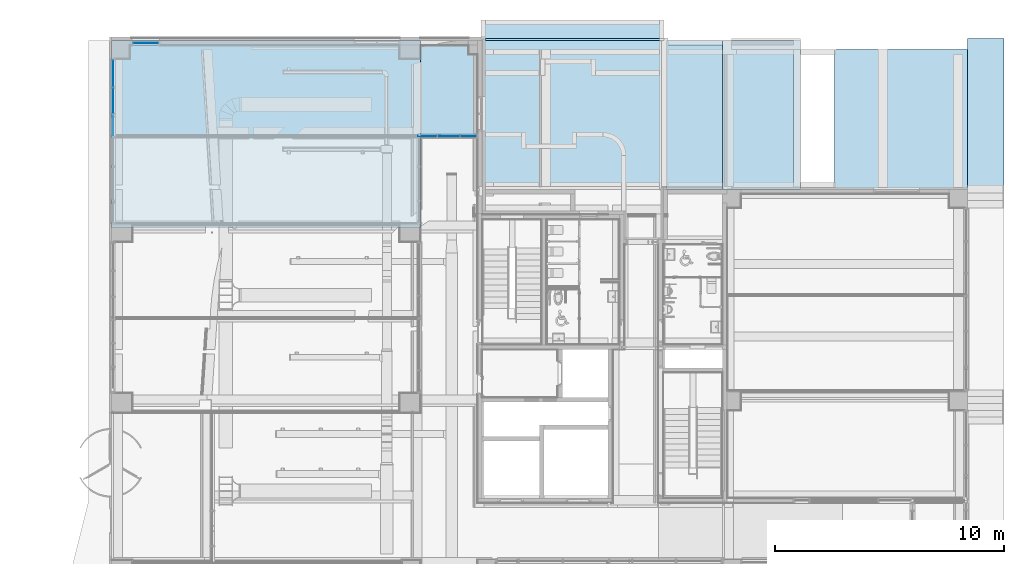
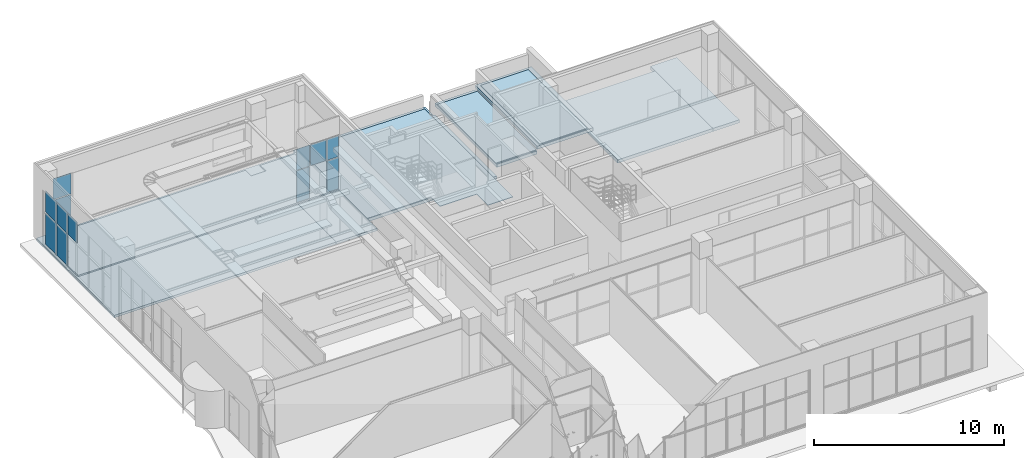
# One storey, part 28 of 100: 12 plates, 12 slabs, 3 elements without a shape of their own.
"""IFC2X3 building model written with IfcOpenShell, lengths in millimetres."""

from ifc_helpers import new_model, entity, si_unit, converted_unit, derived_unit, direction, frame, frame_2d, origin, origin_2d_with_axis, place, context, subcontext, project, spatial, polyline, rectangle, outline, extrude, source, transform, mapped, material, layer, layer_set, layer_usage, type_object, type_shapes, element, aggregate, save


model = new_model("IFC2X3")

# Units and contexts
model_context = context("Model", 3, precision=0.01, world=origin(), true_north=direction((6.123031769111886e-17, 1.0)))
body_context = subcontext(model_context, "Body", "Model", "MODEL_VIEW")
ifc_project = project(units=[si_unit("LENGTHUNIT", "METRE", prefix="MILLI"), si_unit("AREAUNIT", "SQUARE_METRE"), si_unit("VOLUMEUNIT", "CUBIC_METRE"), converted_unit("PLANEANGLEUNIT", "DEGREE", entity("IfcRatioMeasure", 0.017453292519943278), si_unit("PLANEANGLEUNIT", "RADIAN"), dimensions=[0, 0, 0, 0, 0, 0, 0]), si_unit("MASSUNIT", "GRAM", prefix="KILO"), derived_unit("MASSDENSITYUNIT", [(si_unit("MASSUNIT", "GRAM", prefix="KILO"), 1), (si_unit("LENGTHUNIT", "METRE"), -3)]), derived_unit("MOMENTOFINERTIAUNIT", [(si_unit("LENGTHUNIT", "METRE"), 4)]), si_unit("TIMEUNIT", "SECOND"), si_unit("FREQUENCYUNIT", "HERTZ"), si_unit("THERMODYNAMICTEMPERATUREUNIT", "DEGREE_CELSIUS"), derived_unit("THERMALTRANSMITTANCEUNIT", [(si_unit("MASSUNIT", "GRAM", prefix="KILO"), 1), (si_unit("THERMODYNAMICTEMPERATUREUNIT", "KELVIN"), -1), (si_unit("TIMEUNIT", "SECOND"), -3)]), derived_unit("VOLUMETRICFLOWRATEUNIT", [(si_unit("LENGTHUNIT", "METRE"), 3), (si_unit("TIMEUNIT", "SECOND"), -1)]), derived_unit("MASSFLOWRATEUNIT", [(si_unit("MASSUNIT", "GRAM", prefix="KILO"), 1), (si_unit("TIMEUNIT", "SECOND"), -1)]), derived_unit("ROTATIONALFREQUENCYUNIT", [(si_unit("TIMEUNIT", "SECOND"), -1)]), si_unit("ELECTRICCURRENTUNIT", "AMPERE"), si_unit("ELECTRICVOLTAGEUNIT", "VOLT"), si_unit("POWERUNIT", "WATT"), si_unit("FORCEUNIT", "NEWTON", prefix="KILO"), si_unit("ILLUMINANCEUNIT", "LUX"), si_unit("LUMINOUSFLUXUNIT", "LUMEN"), si_unit("LUMINOUSINTENSITYUNIT", "CANDELA"), derived_unit("USERDEFINED", [(si_unit("MASSUNIT", "GRAM", prefix="KILO"), -1), (si_unit("LENGTHUNIT", "METRE"), -2), (si_unit("TIMEUNIT", "SECOND"), 3), (si_unit("LUMINOUSFLUXUNIT", "LUMEN"), 1)]), derived_unit("SOUNDPOWERUNIT", [(si_unit("MASSUNIT", "GRAM", prefix="KILO"), 1), (si_unit("LENGTHUNIT", "METRE"), 2), (si_unit("TIMEUNIT", "SECOND"), -3)]), derived_unit("SOUNDPRESSUREUNIT", [(si_unit("MASSUNIT", "GRAM", prefix="KILO"), 1), (si_unit("LENGTHUNIT", "METRE"), -1), (si_unit("TIMEUNIT", "SECOND"), -2)]), derived_unit("LINEARVELOCITYUNIT", [(si_unit("LENGTHUNIT", "METRE"), 1), (si_unit("TIMEUNIT", "SECOND"), -1)]), si_unit("PRESSUREUNIT", "PASCAL"), derived_unit("USERDEFINED", [(si_unit("LENGTHUNIT", "METRE"), -2), (si_unit("MASSUNIT", "GRAM", prefix="KILO"), 1), (si_unit("TIMEUNIT", "SECOND"), -2)]), derived_unit("LINEARFORCEUNIT", [(si_unit("MASSUNIT", "GRAM", prefix="KILO"), 1), (si_unit("LENGTHUNIT", "METRE"), 1), (si_unit("TIMEUNIT", "SECOND"), -2), (si_unit("LENGTHUNIT", "METRE"), -1)]), derived_unit("PLANARFORCEUNIT", [(si_unit("MASSUNIT", "GRAM", prefix="KILO"), 1), (si_unit("LENGTHUNIT", "METRE"), 1), (si_unit("TIMEUNIT", "SECOND"), -2), (si_unit("LENGTHUNIT", "METRE"), -2)])], contexts=[model_context])

# Site, building, storey
site_placement = place(None, frame((-14167.972527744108, -657.2125860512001, 0.0)))
site = spatial("IfcSite", under=ifc_project, at=site_placement, Name="Default", CompositionType="ELEMENT")
building_placement = place(site_placement, origin())
building = spatial("IfcBuilding", under=site, at=building_placement, Name="Sample Building", CompositionType="ELEMENT")
storey_placement = place(building_placement, origin())
storey = spatial("IfcBuildingStorey", under=building, at=storey_placement, Name="지상 1층", CompositionType="ELEMENT", Elevation=0.0)

# Slabs
ifc_material_1 = material(Name="KBIMS-콘크리트")
ifc_layer_1 = layer(ifc_material_1, 150.0)
ifc_layer_set_1 = layer_set([ifc_layer_1], Name="바닥:SL111-철근콘크리트구조 바닥 150mm_S2")
ifc_layer_usage_1 = layer_usage(ifc_layer_set_1, "AXIS3", "POSITIVE", 0.0)
slab_type_1 = type_object("IfcSlabType", Name="바닥:SL111-철근콘크리트구조 바닥 150mm_S2", PredefinedType="FLOOR", material=ifc_layer_set_1)
slab_1_placement = place(storey_placement, origin())
element("IfcSlab", 1, at=slab_1_placement, inside=storey, type_object=slab_type_1, material=ifc_layer_usage_1, Name="바닥:SL111-철근콘크리트구조 바닥 150mm_S2", ObjectType="바닥:SL111-철근콘크리트구조 바닥 150mm_S2", PredefinedType="FLOOR", context=body_context, shape_type="SweptSolid", body=[
    extrude(rectangle(XDim=8199.99998715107, YDim=13499.982650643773, at=origin_2d_with_axis()), frame((20817.963779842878, 31657.2123015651, 0.0), z_axis=(0.0, 0.0, -1.0), x_axis=(0.0, 1.0, 0.0)), (0.0, 0.0, 1.0), 150.0),
])
ifc_layer_2 = layer(ifc_material_1, 150.0)
ifc_layer_set_2 = layer_set([ifc_layer_2], Name="바닥:SL111-철근콘크리트구조 바닥 150mm_S3")
ifc_layer_usage_2 = layer_usage(ifc_layer_set_2, "AXIS3", "POSITIVE", 0.0)
slab_type_2 = type_object("IfcSlabType", Name="바닥:SL111-철근콘크리트구조 바닥 150mm_S3", PredefinedType="FLOOR", material=ifc_layer_set_2)
slab_2_placement = place(storey_placement, origin())
element("IfcSlab", 2, at=slab_2_placement, inside=storey, type_object=slab_type_2, material=ifc_layer_usage_2, Name="바닥:SL111-철근콘크리트구조 바닥 150mm_S3", ObjectType="바닥:SL111-철근콘크리트구조 바닥 150mm_S3", PredefinedType="FLOOR", context=body_context, shape_type="SweptSolid", body=[
    extrude(rectangle(XDim=8199.999987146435, YDim=2498.1707092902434, at=frame_2d((-4.547473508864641e-12, 4.320099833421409e-12), x_axis=(1.0, 0.0))), frame((28817.04045980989, 31657.212301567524, 0.0), z_axis=(0.0, 0.0, -1.0), x_axis=(0.0, 1.0, 0.0)), (0.0, 0.0, 1.0), 150.0),
])
ifc_layer_3 = layer(ifc_material_1, 200.0)
ifc_layer_set_3 = layer_set([ifc_layer_3], Name="바닥:SL111-철근콘크리트구조 바닥 200mm_S12")
ifc_layer_usage_3 = layer_usage(ifc_layer_set_3, "AXIS3", "POSITIVE", 0.0)
slab_type_3 = type_object("IfcSlabType", Name="바닥:SL111-철근콘크리트구조 바닥 200mm_S12", PredefinedType="FLOOR", material=ifc_layer_set_3)
slab_3_placement = place(storey_placement, origin())
element("IfcSlab", 3, at=slab_3_placement, inside=storey, type_object=slab_type_3, material=ifc_layer_usage_3, Name="바닥:SL111-철근콘크리트구조 바닥 200mm_S12", ObjectType="바닥:SL111-철근콘크리트구조 바닥 200mm_S12", PredefinedType="FLOOR", context=body_context, shape_type="SweptSolid", body=[
    extrude(rectangle(XDim=6100.000012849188, YDim=5800.411960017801, at=frame_2d((0.0, 4.320099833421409e-12), x_axis=(1.0, 0.0))), frame((48567.75784892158, 32307.212301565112, -2100.0), z_axis=(0.0, 0.0, -1.0), x_axis=(0.0, 1.0, 0.0)), (0.0, 0.0, 1.0), 200.0),
])
ifc_layer_4 = layer(ifc_material_1, 200.0)
ifc_layer_set_4 = layer_set([ifc_layer_4], Name="바닥:SL111-철근콘크리트구조 바닥 200mm_S13")
ifc_layer_usage_4 = layer_usage(ifc_layer_set_4, "AXIS3", "POSITIVE", 0.0)
slab_type_4 = type_object("IfcSlabType", Name="바닥:SL111-철근콘크리트구조 바닥 200mm_S13", PredefinedType="FLOOR", material=ifc_layer_set_4)
slab_4_placement = place(storey_placement, origin())
element("IfcSlab", 4, at=slab_4_placement, inside=storey, type_object=slab_type_4, material=ifc_layer_usage_4, Name="바닥:SL111-철근콘크리트구조 바닥 200mm_S13", ObjectType="바닥:SL111-철근콘크리트구조 바닥 200mm_S13", PredefinedType="FLOOR", context=body_context, shape_type="SweptSolid", body=[
    extrude(rectangle(XDim=6499.999987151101, YDim=8251.846676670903, at=frame_2d((2.2737367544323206e-12, -2.2737367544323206e-12), x_axis=(1.0, 0.0))), frame((34192.04915279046, 32507.212301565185, -550.0), z_axis=(0.0, 0.0, -1.0), x_axis=(0.0, 1.0, 0.0)), (0.0, 0.0, 1.0), 200.0),
])
ifc_material_2 = material(Name="SL341-테라조 바닥 (바탕48mm, 마감32mm)")
ifc_layer_5 = layer(ifc_material_2, 80.0)
ifc_layer_set_5 = layer_set([ifc_layer_5], Name="바닥:A1-14-06B-테라조타일 (80mm)")
ifc_layer_usage_5 = layer_usage(ifc_layer_set_5, "AXIS3", "POSITIVE", 0.0)
slab_type_5 = type_object("IfcSlabType", Name="바닥:A1-14-06B-테라조타일 (80mm)", PredefinedType="FLOOR", material=ifc_layer_set_5)
slab_5_placement = place(storey_placement, origin())
element("IfcSlab", 5, at=slab_5_placement, inside=storey, type_object=slab_type_5, material=ifc_layer_usage_5, Name="바닥:A1-14-06B-테라조타일 (80mm)", ObjectType="바닥:A1-14-06B-테라조타일 (80mm)", PredefinedType="FLOOR", context=body_context, shape_type="SweptSolid", body=[
    extrude(outline(polyline([(-3035.445453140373, -9645.53858115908), (327.08907930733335, -9645.53858115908), (327.08907930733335, -8970.521231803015), (927.08909389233, -8970.521231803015), (927.089093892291, 2829.4788048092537), (327.08907930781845, 2829.4788048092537), (327.08907930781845, 3729.478804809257), (927.089093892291, 3729.478804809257), (927.0890938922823, 5829.470075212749), (527.0891067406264, 5829.470075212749), (527.0891067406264, 6227.632128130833), (-3035.4454531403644, 6227.632128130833), (-3035.445453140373, -9645.53858115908)])), frame((23838.493686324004, 34630.1232012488, 80.0), z_axis=(0.0, 0.0, -1.0), x_axis=(0.0, 1.0, 0.0)), (0.0, 0.0, 1.0), 80.0),
])

# Curtain wall, plates
curtain_wall_type = type_object("IfcCurtainWallType", Name="커튼월:CW112-스테인리스 스틸 커튼월", PredefinedType="NOTDEFINED")
curtain_wall_1_placement = place(storey_placement, origin())
curtain_wall_1 = element("IfcCurtainWall", 6, at=curtain_wall_1_placement, inside=storey, type_object=curtain_wall_type, Name="커튼월:CW112-스테인리스 스틸 커튼월", ObjectType="커튼월:CW112-스테인리스 스틸 커튼월")
ifc_material_3 = material(Name="KBIMS-로이유리(코팅)")
plate_type_1 = type_object("IfcPlateType", Name="CW300-THK24.Low-e coating glass:CW300-THK24.Low-e coating glass", PredefinedType="CURTAIN_PANEL", material=ifc_material_3)
shared_shape_1 = source(origin(), body_context, "Body", "SweptSolid", [
    extrude(rectangle(XDim=1175.0345324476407, YDim=24.000000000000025, at=origin_2d_with_axis()), frame((0.0, 0.0, 0.0), z_axis=(0.0, 0.0, 1.0), x_axis=(-1.0, 0.0, 0.0)), (0.0, 0.0, 1.0), 2024.9999999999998),
])
type_shapes(plate_type_1, [shared_shape_1])
plate_1_placement = place(curtain_wall_1_placement, frame((14130.455105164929, 34319.69501433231, 130.0), z_axis=(0.0, 0.0, 1.0), x_axis=(0.0, -1.0, 0.0)))
plate_1 = element("IfcPlate", 7, at=plate_1_placement, type_object=plate_type_1, material=ifc_material_3, Name="CW300-THK24.Low-e coating glass:CW300-THK24.Low-e coating glass", ObjectType="CW300-THK24.Low-e coating glass:CW300-THK24.Low-e coating glass", context=body_context, shape_type="MappedRepresentation", body=[
    mapped(shared_shape_1, transform((0.0, 0.0, 0.0), scale=1.0)),
])
plate_type_2 = type_object("IfcPlateType", Name="CW300-THK24.Low-e coating glass:CW300-THK24.Low-e coating glass", PredefinedType="CURTAIN_PANEL", material=ifc_material_3)
shared_shape_2 = source(origin(), body_context, "Body", "SweptSolid", [
    extrude(rectangle(XDim=1100.0000000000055, YDim=24.000000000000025, at=origin_2d_with_axis()), frame((0.0, 0.0, 0.0), z_axis=(0.0, 0.0, 1.0), x_axis=(-1.0, 0.0, 0.0)), (0.0, 0.0, 1.0), 2024.9999999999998),
])
type_shapes(plate_type_2, [shared_shape_2])
plate_2_placement = place(curtain_wall_1_placement, frame((14130.455105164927, 33132.177748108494, 130.0), z_axis=(0.0, 0.0, 1.0), x_axis=(0.0, -1.0, 0.0)))
plate_2 = element("IfcPlate", 8, at=plate_2_placement, type_object=plate_type_2, material=ifc_material_3, Name="CW300-THK24.Low-e coating glass:CW300-THK24.Low-e coating glass", ObjectType="CW300-THK24.Low-e coating glass:CW300-THK24.Low-e coating glass", context=body_context, shape_type="MappedRepresentation", body=[
    mapped(shared_shape_2, transform((0.0, 0.0, 0.0), scale=1.0)),
])

# Curtain wall, plate
curtain_wall_2_placement = place(storey_placement, origin())
curtain_wall_2 = element("IfcCurtainWall", 9, at=curtain_wall_2_placement, inside=storey, type_object=curtain_wall_type, Name="커튼월:CW112-스테인리스 스틸 커튼월", ObjectType="커튼월:CW112-스테인리스 스틸 커튼월")
plate_3_placement = place(curtain_wall_2_placement, frame((15567.998485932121, 35657.21229514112, 130.0)))
plate_3 = element("IfcPlate", 10, at=plate_3_placement, type_object=plate_type_2, material=ifc_material_3, Name="CW300-THK24.Low-e coating glass:CW300-THK24.Low-e coating glass", ObjectType="CW300-THK24.Low-e coating glass:CW300-THK24.Low-e coating glass", context=body_context, shape_type="MappedRepresentation", body=[
    mapped(shared_shape_2, transform((0.0, 0.0, 0.0), scale=1.0)),
])

# Plate
plate_type_3 = type_object("IfcPlateType", Name="CW300-THK24.Low-e coating glass:CW300-THK24.Low-e coating glass", PredefinedType="CURTAIN_PANEL", material=ifc_material_3)
shared_shape_3 = source(origin(), body_context, "Body", "SweptSolid", [
    extrude(rectangle(XDim=1175.0345324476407, YDim=24.000000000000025, at=origin_2d_with_axis()), frame((0.0, 0.0, 0.0), z_axis=(0.0, 0.0, 1.0), x_axis=(-1.0, 0.0, 0.0)), (0.0, 0.0, 1.0), 1345.000000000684),
])
type_shapes(plate_type_3, [shared_shape_3])
plate_4_placement = place(curtain_wall_1_placement, frame((14130.455105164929, 34319.69501433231, 2205.0), z_axis=(0.0, 0.0, 1.0), x_axis=(0.0, -1.0, 0.0)))
plate_4 = element("IfcPlate", 11, at=plate_4_placement, type_object=plate_type_3, material=ifc_material_3, Name="CW300-THK24.Low-e coating glass:CW300-THK24.Low-e coating glass", ObjectType="CW300-THK24.Low-e coating glass:CW300-THK24.Low-e coating glass", context=body_context, shape_type="MappedRepresentation", body=[
    mapped(shared_shape_3, transform((0.0, 0.0, 0.0), scale=1.0)),
])

plate_type_4 = type_object("IfcPlateType", Name="CW300-THK24.Low-e coating glass:CW300-THK24.Low-e coating glass", PredefinedType="CURTAIN_PANEL", material=ifc_material_3)
shared_shape_4 = source(origin(), body_context, "Body", "SweptSolid", [
    extrude(rectangle(XDim=1100.0000000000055, YDim=24.000000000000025, at=origin_2d_with_axis()), frame((0.0, 0.0, 0.0), z_axis=(0.0, 0.0, 1.0), x_axis=(-1.0, 0.0, 0.0)), (0.0, 0.0, 1.0), 1345.000000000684),
])
type_shapes(plate_type_4, [shared_shape_4])
plate_5_placement = place(curtain_wall_1_placement, frame((14130.455105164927, 33132.177748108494, 2205.0), z_axis=(0.0, 0.0, 1.0), x_axis=(0.0, -1.0, 0.0)))
plate_5 = element("IfcPlate", 12, at=plate_5_placement, type_object=plate_type_4, material=ifc_material_3, Name="CW300-THK24.Low-e coating glass:CW300-THK24.Low-e coating glass", ObjectType="CW300-THK24.Low-e coating glass:CW300-THK24.Low-e coating glass", context=body_context, shape_type="MappedRepresentation", body=[
    mapped(shared_shape_4, transform((0.0, 0.0, 0.0), scale=1.0)),
])

plate_6_placement = place(curtain_wall_2_placement, frame((15567.998485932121, 35657.21229514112, 2205.0)))
plate_6 = element("IfcPlate", 13, at=plate_6_placement, type_object=plate_type_4, material=ifc_material_3, Name="CW300-THK24.Low-e coating glass:CW300-THK24.Low-e coating glass", ObjectType="CW300-THK24.Low-e coating glass:CW300-THK24.Low-e coating glass", context=body_context, shape_type="MappedRepresentation", body=[
    mapped(shared_shape_4, transform((0.0, 0.0, 0.0), scale=1.0)),
])

aggregate(curtain_wall_2, [plate_3, plate_6])

plate_type_5 = type_object("IfcPlateType", Name="CW300-THK24.Low-e coating glass:CW300-THK24.Low-e coating glass", PredefinedType="CURTAIN_PANEL", material=ifc_material_3)
shared_shape_5 = source(origin(), body_context, "Body", "SweptSolid", [
    extrude(rectangle(XDim=950.0000000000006, YDim=24.000000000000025, at=origin_2d_with_axis()), frame((0.0, 0.0, 0.0), z_axis=(0.0, 0.0, 1.0), x_axis=(-1.0, 0.0, 0.0)), (0.0, 0.0, 1.0), 1345.000000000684),
])
type_shapes(plate_type_5, [shared_shape_5])
plate_7_placement = place(curtain_wall_1_placement, frame((14130.455105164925, 32057.177748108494, 2205.0), z_axis=(0.0, 0.0, 1.0), x_axis=(0.0, -1.0, 0.0)))
plate_7 = element("IfcPlate", 14, at=plate_7_placement, type_object=plate_type_5, material=ifc_material_3, Name="CW300-THK24.Low-e coating glass:CW300-THK24.Low-e coating glass", ObjectType="CW300-THK24.Low-e coating glass:CW300-THK24.Low-e coating glass", context=body_context, shape_type="MappedRepresentation", body=[
    mapped(shared_shape_5, transform((0.0, 0.0, 0.0), scale=1.0)),
])

aggregate(curtain_wall_1, [plate_1, plate_2, plate_4, plate_5, plate_7])

# Curtain wall, plates
curtain_wall_3_placement = place(storey_placement, origin())
curtain_wall_3 = element("IfcCurtainWall", 15, at=curtain_wall_3_placement, inside=storey, type_object=curtain_wall_type, Name="커튼월:CW112-스테인리스 스틸 커튼월", ObjectType="커튼월:CW112-스테인리스 스틸 커튼월")
plate_8_placement = place(curtain_wall_3_placement, frame((28799.12581445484, 31587.177748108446, 2205.0)))
plate_8 = element("IfcPlate", 16, at=plate_8_placement, type_object=plate_type_5, material=ifc_material_3, Name="CW300-THK24.Low-e coating glass:CW300-THK24.Low-e coating glass", ObjectType="CW300-THK24.Low-e coating glass:CW300-THK24.Low-e coating glass", context=body_context, shape_type="MappedRepresentation", body=[
    mapped(shared_shape_5, transform((0.0, 0.0, 0.0), scale=1.0)),
])
plate_type_6 = type_object("IfcPlateType", Name="CW300-THK24.Low-e coating glass:CW300-THK24.Low-e coating glass", PredefinedType="CURTAIN_PANEL", material=ifc_material_3)
shared_shape_6 = source(origin(), body_context, "Body", "SweptSolid", [
    extrude(rectangle(XDim=801.1533233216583, YDim=24.000000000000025, at=origin_2d_with_axis()), frame((0.0, 0.0, 0.0), z_axis=(0.0, 0.0, 1.0), x_axis=(-1.0, 0.0, 0.0)), (0.0, 0.0, 1.0), 2024.9999999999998),
])
type_shapes(plate_type_6, [shared_shape_6])
plate_9_placement = place(curtain_wall_3_placement, frame((27873.54915279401, 31587.17774810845, 130.0)))
plate_9 = element("IfcPlate", 17, at=plate_9_placement, type_object=plate_type_6, material=ifc_material_3, Name="CW300-THK24.Low-e coating glass:CW300-THK24.Low-e coating glass", ObjectType="CW300-THK24.Low-e coating glass:CW300-THK24.Low-e coating glass", context=body_context, shape_type="MappedRepresentation", body=[
    mapped(shared_shape_6, transform((0.0, 0.0, 0.0), scale=1.0)),
])
plate_type_7 = type_object("IfcPlateType", Name="CW300-THK24.Low-e coating glass:CW300-THK24.Low-e coating glass", PredefinedType="CURTAIN_PANEL", material=ifc_material_3)
shared_shape_7 = source(origin(), body_context, "Body", "SweptSolid", [
    extrude(rectangle(XDim=691.9999999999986, YDim=24.000000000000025, at=origin_2d_with_axis()), frame((0.0, 0.0, 0.0), z_axis=(0.0, 0.0, 1.0), x_axis=(-1.0, 0.0, 0.0)), (0.0, 0.0, 1.0), 2024.9999999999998),
])
type_shapes(plate_type_7, [shared_shape_7])
plate_10_placement = place(curtain_wall_3_placement, frame((29670.125814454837, 31587.177748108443, 130.0)))
plate_10 = element("IfcPlate", 18, at=plate_10_placement, type_object=plate_type_7, material=ifc_material_3, Name="CW300-THK24.Low-e coating glass:CW300-THK24.Low-e coating glass", ObjectType="CW300-THK24.Low-e coating glass:CW300-THK24.Low-e coating glass", context=body_context, shape_type="MappedRepresentation", body=[
    mapped(shared_shape_7, transform((0.0, 0.0, 0.0), scale=1.0)),
])
plate_type_8 = type_object("IfcPlateType", Name="CW300-THK24.Low-e coating glass:CW300-THK24.Low-e coating glass", PredefinedType="CURTAIN_PANEL", material=ifc_material_3)
shared_shape_8 = source(origin(), body_context, "Body", "SweptSolid", [
    extrude(rectangle(XDim=801.1533233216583, YDim=24.000000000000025, at=origin_2d_with_axis()), frame((0.0, 0.0, 0.0), z_axis=(0.0, 0.0, 1.0), x_axis=(-1.0, 0.0, 0.0)), (0.0, 0.0, 1.0), 1345.000000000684),
])
type_shapes(plate_type_8, [shared_shape_8])
plate_11_placement = place(curtain_wall_3_placement, frame((27873.54915279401, 31587.17774810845, 2205.0)))
plate_11 = element("IfcPlate", 19, at=plate_11_placement, type_object=plate_type_8, material=ifc_material_3, Name="CW300-THK24.Low-e coating glass:CW300-THK24.Low-e coating glass", ObjectType="CW300-THK24.Low-e coating glass:CW300-THK24.Low-e coating glass", context=body_context, shape_type="MappedRepresentation", body=[
    mapped(shared_shape_8, transform((0.0, 0.0, 0.0), scale=1.0)),
])
plate_type_9 = type_object("IfcPlateType", Name="CW300-THK24.Low-e coating glass:CW300-THK24.Low-e coating glass", PredefinedType="CURTAIN_PANEL", material=ifc_material_3)
shared_shape_9 = source(origin(), body_context, "Body", "SweptSolid", [
    extrude(rectangle(XDim=691.9999999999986, YDim=24.000000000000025, at=origin_2d_with_axis()), frame((0.0, 0.0, 0.0), z_axis=(0.0, 0.0, 1.0), x_axis=(-1.0, 0.0, 0.0)), (0.0, 0.0, 1.0), 1345.000000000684),
])
type_shapes(plate_type_9, [shared_shape_9])
plate_12_placement = place(curtain_wall_3_placement, frame((29670.125814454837, 31587.177748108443, 2205.0)))
plate_12 = element("IfcPlate", 20, at=plate_12_placement, type_object=plate_type_9, material=ifc_material_3, Name="CW300-THK24.Low-e coating glass:CW300-THK24.Low-e coating glass", ObjectType="CW300-THK24.Low-e coating glass:CW300-THK24.Low-e coating glass", context=body_context, shape_type="MappedRepresentation", body=[
    mapped(shared_shape_9, transform((0.0, 0.0, 0.0), scale=1.0)),
])
aggregate(curtain_wall_3, [plate_9, plate_10, plate_11, plate_8, plate_12])

# Slabs
ifc_layer_6 = layer(ifc_material_1, 200.0)
ifc_layer_set_6 = layer_set([ifc_layer_6], Name="바닥:SL111-철근콘크리트구조 바닥 200mm_S11")
ifc_layer_usage_6 = layer_usage(ifc_layer_set_6, "AXIS3", "POSITIVE", 0.0)
slab_type_6 = type_object("IfcSlabType", Name="바닥:SL111-철근콘크리트구조 바닥 200mm_S11", PredefinedType="FLOOR", material=ifc_layer_set_6)
slab_6_placement = place(storey_placement, origin())
element("IfcSlab", 21, at=slab_6_placement, inside=storey, type_object=slab_type_6, material=ifc_layer_usage_6, Name="바닥:SL111-철근콘크리트구조 바닥 200mm_S11", ObjectType="바닥:SL111-철근콘크리트구조 바닥 200mm_S11", PredefinedType="FLOOR", context=body_context, shape_type="SweptSolid", body=[
    extrude(rectangle(XDim=6599.999912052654, YDim=1600.008662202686, at=frame_2d((-4.320099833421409e-12, 4.376943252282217e-12), x_axis=(1.0, 0.0))), frame((52267.96816003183, 32557.212351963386, -2100.0), z_axis=(0.0, 0.0, -1.0), x_axis=(0.0, 1.0, 0.0)), (0.0, 0.0, 1.0), 200.0),
])
ifc_layer_usage_7 = layer_usage(ifc_layer_set_4, "AXIS3", "POSITIVE", 0.0)
slab_type_7 = type_object("IfcSlabType", Name="바닥:SL111-철근콘크리트구조 바닥 200mm_S13", PredefinedType="FLOOR", material=ifc_layer_set_4)
slab_7_placement = place(storey_placement, origin())
element("IfcSlab", 22, at=slab_7_placement, inside=storey, type_object=slab_type_7, material=ifc_layer_usage_7, Name="바닥:SL111-철근콘크리트구조 바닥 200mm_S13", ObjectType="바닥:SL111-철근콘크리트구조 바닥 200mm_S13", PredefinedType="FLOOR", context=body_context, shape_type="SweptSolid", body=[
    extrude(rectangle(XDim=6500.000012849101, YDim=3400.000000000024, at=frame_2d((2.0463630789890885e-12, 0.0), x_axis=(1.0, 0.0))), frame((42467.94720597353, 32507.212301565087, 500.0), z_axis=(0.0, 0.0, -1.0), x_axis=(0.0, 1.0, 0.0)), (0.0, 0.0, 1.0), 200.0),
])
ifc_layer_usage_8 = layer_usage(ifc_layer_set_4, "AXIS3", "POSITIVE", 0.0)
slab_type_8 = type_object("IfcSlabType", Name="바닥:SL111-철근콘크리트구조 바닥 200mm_S13", PredefinedType="FLOOR", material=ifc_layer_set_4)
slab_8_placement = place(storey_placement, origin())
element("IfcSlab", 23, at=slab_8_placement, inside=storey, type_object=slab_type_8, material=ifc_layer_usage_8, Name="바닥:SL111-철근콘크리트구조 바닥 200mm_S13", ObjectType="바닥:SL111-철근콘크리트구조 바닥 200mm_S13", PredefinedType="FLOOR", context=body_context, shape_type="SweptSolid", body=[
    extrude(rectangle(XDim=6500.000000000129, YDim=2449.9913070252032, at=frame_2d((-4.320099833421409e-12, -5.393303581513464e-10), x_axis=(1.0, 0.0))), frame((39542.96814463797, 32507.212307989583, 200.0), z_axis=(0.0, 0.0, -1.0), x_axis=(0.0, 1.0, 0.0)), (0.0, 0.0, 1.0), 200.0),
])
ifc_layer_usage_9 = layer_usage(ifc_layer_set_4, "AXIS3", "POSITIVE", 0.0)
slab_type_9 = type_object("IfcSlabType", Name="바닥:SL111-철근콘크리트구조 바닥 200mm_S13", PredefinedType="FLOOR", material=ifc_layer_set_4)
slab_9_placement = place(storey_placement, origin())
element("IfcSlab", 24, at=slab_9_placement, inside=storey, type_object=slab_type_9, material=ifc_layer_usage_9, Name="바닥:SL111-철근콘크리트구조 바닥 200mm_S13", ObjectType="바닥:SL111-철근콘크리트구조 바닥 200mm_S13", PredefinedType="FLOOR", context=body_context, shape_type="SweptSolid", body=[
    extrude(rectangle(XDim=799.9999672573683, YDim=7999.999999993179, at=frame_2d((2.1600499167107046e-12, -2.0463630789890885e-12), x_axis=(1.0, 0.0))), frame((34217.97249112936, 36257.21229161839, -550.0), z_axis=(0.0, 0.0, -1.0), x_axis=(0.0, 1.0, 0.0)), (0.0, 0.0, 1.0), 200.0),
])
ifc_material_4 = material(Name="KBIMS-목재블록")
ifc_layer_7 = layer(ifc_material_4, 30.0)
ifc_layer_set_7 = layer_set([ifc_layer_7], Name="바닥:SL441-목재블록 바닥 THK38")
ifc_layer_usage_10 = layer_usage(ifc_layer_set_7, "AXIS3", "POSITIVE", 0.0)
slab_type_10 = type_object("IfcSlabType", Name="바닥:SL441-목재블록 바닥 THK38", PredefinedType="FLOOR", material=ifc_layer_set_7)
slab_10_placement = place(storey_placement, origin())
element("IfcSlab", 25, at=slab_10_placement, inside=storey, type_object=slab_type_10, material=ifc_layer_usage_10, Name="바닥:SL441-목재블록 바닥 THK38", ObjectType="바닥:SL441-목재블록 바닥 THK38", PredefinedType="FLOOR", context=body_context, shape_type="SweptSolid", body=[
    extrude(outline(polyline([(-1032.4999886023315, -4424.6445496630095), (6167.499978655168, -4424.6445496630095), (6167.499978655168, 3245.3641799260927), (-3152.5000014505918, 3245.3641799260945), (-3152.5000014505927, 1705.355486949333), (-1982.4999886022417, 1705.355486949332), (-1982.499988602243, -526.0751172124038), (-1032.4999886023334, -526.0751172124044), (-1032.4999886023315, -4424.6445496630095)])), frame((34842.608311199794, 30289.712296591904, -520.0), z_axis=(0.0, 0.0, -1.0), x_axis=(0.0, 1.0, 0.0)), (0.0, 0.0, 1.0), 30.000000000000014),
])
ifc_layer_usage_11 = layer_usage(ifc_layer_set_7, "AXIS3", "POSITIVE", 0.0)
slab_type_11 = type_object("IfcSlabType", Name="바닥:SL441-목재블록 바닥 THK38", PredefinedType="FLOOR", material=ifc_layer_set_7)
slab_11_placement = place(storey_placement, origin())
element("IfcSlab", 26, at=slab_11_placement, inside=storey, type_object=slab_type_11, material=ifc_layer_usage_11, Name="바닥:SL441-목재블록 바닥 THK38", ObjectType="바닥:SL441-목재블록 바닥 THK38", PredefinedType="FLOOR", context=body_context, shape_type="SweptSolid", body=[
    extrude(rectangle(XDim=6220.000012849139, YDim=2899.999999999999, at=frame_2d((-2.2737367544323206e-12, 0.0), x_axis=(1.0, 0.0))), frame((42417.96379814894, 32447.212301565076, 530.0), z_axis=(0.0, 0.0, -1.0), x_axis=(0.0, 1.0, 0.0)), (0.0, 0.0, 1.0), 30.000000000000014),
])
ifc_layer_usage_12 = layer_usage(ifc_layer_set_7, "AXIS3", "POSITIVE", 0.0)
slab_type_12 = type_object("IfcSlabType", Name="바닥:SL441-목재블록 바닥 THK38", PredefinedType="FLOOR", material=ifc_layer_set_7)
slab_12_placement = place(storey_placement, origin())
element("IfcSlab", 27, at=slab_12_placement, inside=storey, type_object=slab_type_12, material=ifc_layer_usage_12, Name="바닥:SL441-목재블록 바닥 THK38", ObjectType="바닥:SL441-목재블록 바닥 THK38", PredefinedType="FLOOR", context=body_context, shape_type="SweptSolid", body=[
    extrude(rectangle(XDim=6220.000012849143, YDim=2449.991307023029, at=frame_2d((0.0, -6.480149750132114e-12), x_axis=(1.0, 0.0))), frame((39542.96814463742, 32447.212301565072, 230.0), z_axis=(0.0, 0.0, -1.0), x_axis=(0.0, 1.0, 0.0)), (0.0, 0.0, 1.0), 29.999999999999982),
])

save(model, "model.ifc")
